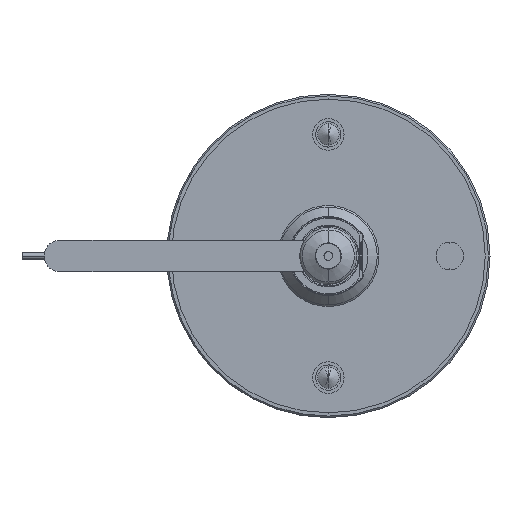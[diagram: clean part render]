
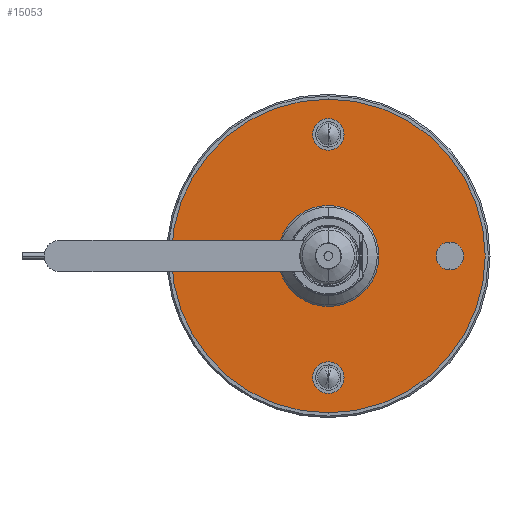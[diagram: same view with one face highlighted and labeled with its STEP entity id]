
A CAD part, front view. The second image highlights one B-rep face of the part: STEP entity #15053.
In plain terms, the highlighted planar face has unit normal (0, -1, 0) as drawn and (0, 0, -1) by its records, which use the part's own axes.
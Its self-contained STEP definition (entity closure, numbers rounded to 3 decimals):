
#505 = EDGE_LOOP ( 'NONE', ( #23686, #25101 ) ) ;
#690 = DIRECTION ( 'NONE',  ( 0., 0., 1. ) ) ;
#862 = CARTESIAN_POINT ( 'NONE',  ( -33.5, 0., 0. ) ) ;
#1191 = AXIS2_PLACEMENT_3D ( 'NONE', #2254, #7647, #12249 ) ;
#1244 = DIRECTION ( 'NONE',  ( 0., 0., 1. ) ) ;
#1412 = DIRECTION ( 'NONE',  ( -1., 0., 0. ) ) ;
#1458 = DIRECTION ( 'NONE',  ( 0., 0., 1. ) ) ;
#1537 = CARTESIAN_POINT ( 'NONE',  ( 0., 0., 0. ) ) ;
#1939 = CIRCLE ( 'NONE', #16649, 4.4 ) ;
#2000 = CARTESIAN_POINT ( 'NONE',  ( 43.5, 0., 0. ) ) ;
#2174 = ORIENTED_EDGE ( 'NONE', *, *, #23461, .T. ) ;
#2254 = CARTESIAN_POINT ( 'NONE',  ( 0., 0., 0. ) ) ;
#2337 = DIRECTION ( 'NONE',  ( -1., 0., 0. ) ) ;
#2362 = CARTESIAN_POINT ( 'NONE',  ( -4.4, -38.5, 0. ) ) ;
#2377 = VERTEX_POINT ( 'NONE', #4679 ) ;
#2520 = ORIENTED_EDGE ( 'NONE', *, *, #25681, .T. ) ;
#3103 = DIRECTION ( 'NONE',  ( -1., 0., 0. ) ) ;
#3149 = ORIENTED_EDGE ( 'NONE', *, *, #4610, .T. ) ;
#3572 = EDGE_CURVE ( 'NONE', #24010, #17967, #23811, .T. ) ;
#3800 = AXIS2_PLACEMENT_3D ( 'NONE', #5359, #21409, #1412 ) ;
#3837 = EDGE_LOOP ( 'NONE', ( #16976, #2520 ) ) ;
#4089 = VERTEX_POINT ( 'NONE', #2000 ) ;
#4341 = VERTEX_POINT ( 'NONE', #19989 ) ;
#4455 = ORIENTED_EDGE ( 'NONE', *, *, #14112, .T. ) ;
#4610 = EDGE_CURVE ( 'NONE', #10552, #14207, #23886, .T. ) ;
#4679 = CARTESIAN_POINT ( 'NONE',  ( -49.675, 0., 0. ) ) ;
#4681 = CIRCLE ( 'NONE', #19376, 49.675 ) ;
#5014 = EDGE_LOOP ( 'NONE', ( #2174, #3149 ) ) ;
#5226 = CARTESIAN_POINT ( 'NONE',  ( 4.4, -38.5, 0. ) ) ;
#5249 = ORIENTED_EDGE ( 'NONE', *, *, #9967, .T. ) ;
#5252 = EDGE_LOOP ( 'NONE', ( #14347, #20772 ) ) ;
#5330 = CARTESIAN_POINT ( 'NONE',  ( 49.675, 0., 0. ) ) ;
#5354 = DIRECTION ( 'NONE',  ( 0., 0., 1. ) ) ;
#5359 = CARTESIAN_POINT ( 'NONE',  ( 0., 38.5, 0. ) ) ;
#5751 = AXIS2_PLACEMENT_3D ( 'NONE', #12851, #14329, #20389 ) ;
#6041 = CARTESIAN_POINT ( 'NONE',  ( 38.5, 0., 0. ) ) ;
#6101 = CARTESIAN_POINT ( 'NONE',  ( -4.4, 38.5, 0. ) ) ;
#6208 = CIRCLE ( 'NONE', #12495, 5. ) ;
#6549 = FACE_BOUND ( 'NONE', #5014, .T. ) ;
#6854 = AXIS2_PLACEMENT_3D ( 'NONE', #16233, #690, #24263 ) ;
#6943 = DIRECTION ( 'NONE',  ( -1., 0., 0. ) ) ;
#7059 = AXIS2_PLACEMENT_3D ( 'NONE', #12593, #20638, #2337 ) ;
#7311 = CARTESIAN_POINT ( 'NONE',  ( -10.5, 0., 0. ) ) ;
#7461 = VERTEX_POINT ( 'NONE', #16155 ) ;
#7548 = CARTESIAN_POINT ( 'NONE',  ( -38.5, 0., 0. ) ) ;
#7601 = VERTEX_POINT ( 'NONE', #5330 ) ;
#7647 = DIRECTION ( 'NONE',  ( 0., 0., -1. ) ) ;
#8097 = CARTESIAN_POINT ( 'NONE',  ( 0., 0., 0. ) ) ;
#8133 = FACE_BOUND ( 'NONE', #10197, .T. ) ;
#9034 = DIRECTION ( 'NONE',  ( 1., 0., 0. ) ) ;
#9115 = CIRCLE ( 'NONE', #12480, 5. ) ;
#9336 = VERTEX_POINT ( 'NONE', #16461 ) ;
#9479 = DIRECTION ( 'NONE',  ( -1., 0., 0. ) ) ;
#9523 = DIRECTION ( 'NONE',  ( -1., 0., 0. ) ) ;
#9809 = DIRECTION ( 'NONE',  ( -1., 0., 0. ) ) ;
#9879 = VERTEX_POINT ( 'NONE', #6101 ) ;
#9967 = EDGE_CURVE ( 'NONE', #9879, #9336, #18235, .T. ) ;
#10197 = EDGE_LOOP ( 'NONE', ( #5249, #22890 ) ) ;
#10552 = VERTEX_POINT ( 'NONE', #7311 ) ;
#11452 = ORIENTED_EDGE ( 'NONE', *, *, #15460, .T. ) ;
#11656 = AXIS2_PLACEMENT_3D ( 'NONE', #19098, #12788, #15153 ) ;
#11741 = CARTESIAN_POINT ( 'NONE',  ( 0., 0., 0. ) ) ;
#12249 = DIRECTION ( 'NONE',  ( -1., 0., 0. ) ) ;
#12341 = PLANE ( 'NONE',  #7059 ) ;
#12480 = AXIS2_PLACEMENT_3D ( 'NONE', #20660, #18437, #6943 ) ;
#12495 = AXIS2_PLACEMENT_3D ( 'NONE', #6041, #1458, #9479 ) ;
#12530 = CIRCLE ( 'NONE', #1191, 49.675 ) ;
#12534 = AXIS2_PLACEMENT_3D ( 'NONE', #1537, #5354, #9034 ) ;
#12593 = CARTESIAN_POINT ( 'NONE',  ( 10.5, 0., 0. ) ) ;
#12788 = DIRECTION ( 'NONE',  ( 0., 0., 1. ) ) ;
#12851 = CARTESIAN_POINT ( 'NONE',  ( 0., -38.5, 0. ) ) ;
#14112 = EDGE_CURVE ( 'NONE', #7601, #2377, #4681, .T. ) ;
#14207 = VERTEX_POINT ( 'NONE', #22947 ) ;
#14276 = CIRCLE ( 'NONE', #17644, 5. ) ;
#14329 = DIRECTION ( 'NONE',  ( 0., 0., 1. ) ) ;
#14347 = ORIENTED_EDGE ( 'NONE', *, *, #3572, .T. ) ;
#14586 = EDGE_LOOP ( 'NONE', ( #4455, #11452 ) ) ;
#15053 = ADVANCED_FACE ( 'NONE', ( #16556, #24580, #8133, #16170, #20386, #6549 ), #12341, .T. ) ;
#15153 = DIRECTION ( 'NONE',  ( -1., 0., 0. ) ) ;
#15460 = EDGE_CURVE ( 'NONE', #2377, #7601, #12530, .T. ) ;
#15973 = DIRECTION ( 'NONE',  ( 0., 0., 1. ) ) ;
#16155 = CARTESIAN_POINT ( 'NONE',  ( 33.5, 0., 0. ) ) ;
#16170 = FACE_BOUND ( 'NONE', #505, .T. ) ;
#16233 = CARTESIAN_POINT ( 'NONE',  ( 0., 38.5, 0. ) ) ;
#16461 = CARTESIAN_POINT ( 'NONE',  ( 4.4, 38.5, 0. ) ) ;
#16556 = FACE_OUTER_BOUND ( 'NONE', #14586, .T. ) ;
#16574 = EDGE_CURVE ( 'NONE', #4341, #23103, #14276, .T. ) ;
#16649 = AXIS2_PLACEMENT_3D ( 'NONE', #22727, #24951, #3103 ) ;
#16976 = ORIENTED_EDGE ( 'NONE', *, *, #16574, .T. ) ;
#17644 = AXIS2_PLACEMENT_3D ( 'NONE', #7548, #1244, #9523 ) ;
#17967 = VERTEX_POINT ( 'NONE', #5226 ) ;
#18036 = EDGE_CURVE ( 'NONE', #9336, #9879, #21432, .T. ) ;
#18091 = DIRECTION ( 'NONE',  ( 1., 0., 0. ) ) ;
#18235 = CIRCLE ( 'NONE', #6854, 4.4 ) ;
#18248 = DIRECTION ( 'NONE',  ( 0., 0., -1. ) ) ;
#18437 = DIRECTION ( 'NONE',  ( 0., 0., 1. ) ) ;
#19098 = CARTESIAN_POINT ( 'NONE',  ( -38.5, 0., 0. ) ) ;
#19376 = AXIS2_PLACEMENT_3D ( 'NONE', #8097, #18248, #9809 ) ;
#19602 = AXIS2_PLACEMENT_3D ( 'NONE', #11741, #15973, #18091 ) ;
#19884 = EDGE_CURVE ( 'NONE', #17967, #24010, #1939, .T. ) ;
#19989 = CARTESIAN_POINT ( 'NONE',  ( -43.5, 0., 0. ) ) ;
#20386 = FACE_BOUND ( 'NONE', #3837, .T. ) ;
#20389 = DIRECTION ( 'NONE',  ( -1., 0., 0. ) ) ;
#20638 = DIRECTION ( 'NONE',  ( 0., 0., -1. ) ) ;
#20660 = CARTESIAN_POINT ( 'NONE',  ( 38.5, 0., 0. ) ) ;
#20772 = ORIENTED_EDGE ( 'NONE', *, *, #19884, .T. ) ;
#21409 = DIRECTION ( 'NONE',  ( 0., 0., 1. ) ) ;
#21432 = CIRCLE ( 'NONE', #3800, 4.4 ) ;
#22727 = CARTESIAN_POINT ( 'NONE',  ( 0., -38.5, 0. ) ) ;
#22890 = ORIENTED_EDGE ( 'NONE', *, *, #18036, .T. ) ;
#22947 = CARTESIAN_POINT ( 'NONE',  ( 10.5, 0., 0. ) ) ;
#23016 = CIRCLE ( 'NONE', #11656, 5. ) ;
#23103 = VERTEX_POINT ( 'NONE', #862 ) ;
#23461 = EDGE_CURVE ( 'NONE', #14207, #10552, #24666, .T. ) ;
#23686 = ORIENTED_EDGE ( 'NONE', *, *, #24018, .T. ) ;
#23811 = CIRCLE ( 'NONE', #5751, 4.4 ) ;
#23886 = CIRCLE ( 'NONE', #12534, 10.5 ) ;
#24010 = VERTEX_POINT ( 'NONE', #2362 ) ;
#24018 = EDGE_CURVE ( 'NONE', #7461, #4089, #9115, .T. ) ;
#24263 = DIRECTION ( 'NONE',  ( -1., 0., 0. ) ) ;
#24580 = FACE_BOUND ( 'NONE', #5252, .T. ) ;
#24666 = CIRCLE ( 'NONE', #19602, 10.5 ) ;
#24951 = DIRECTION ( 'NONE',  ( 0., 0., 1. ) ) ;
#25050 = EDGE_CURVE ( 'NONE', #4089, #7461, #6208, .T. ) ;
#25101 = ORIENTED_EDGE ( 'NONE', *, *, #25050, .T. ) ;
#25681 = EDGE_CURVE ( 'NONE', #23103, #4341, #23016, .T. ) ;
